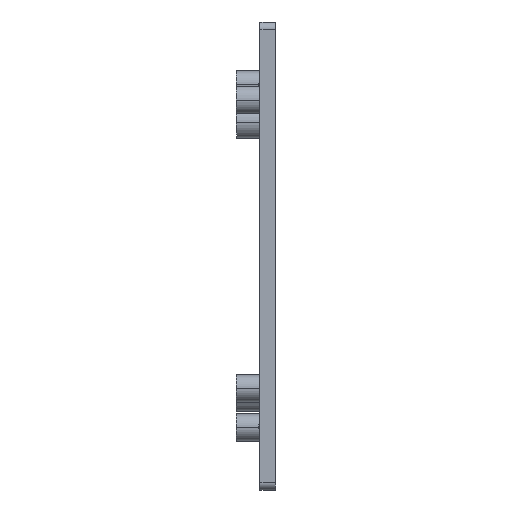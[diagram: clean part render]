
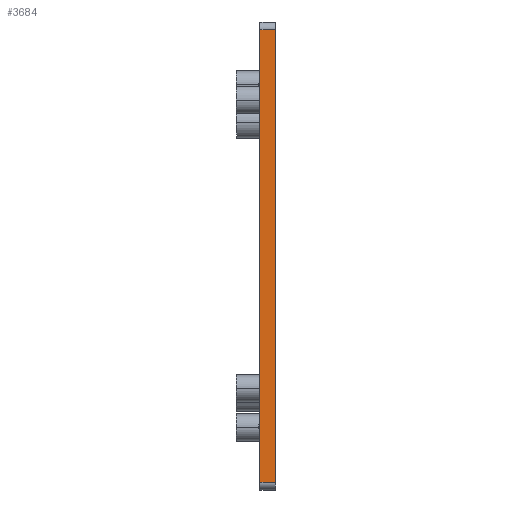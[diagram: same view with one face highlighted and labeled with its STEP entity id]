
A CAD part, left-side view. The second image highlights one B-rep face of the part: STEP entity #3684.
In plain terms, the highlighted planar face has unit normal (-1, 0, 0).
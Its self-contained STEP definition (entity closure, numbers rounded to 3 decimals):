
#66=DIRECTION('',(0.,0.,1.));
#67=VECTOR('',#66,58.);
#68=CARTESIAN_POINT('',(0.,0.,-59.));
#69=LINE('',#68,#67);
#579=DIRECTION('',(0.,0.,1.));
#580=VECTOR('',#579,58.);
#581=CARTESIAN_POINT('',(0.,2.,-59.));
#582=LINE('',#581,#580);
#1317=DIRECTION('',(0.,-1.,0.));
#1318=VECTOR('',#1317,2.);
#1319=CARTESIAN_POINT('',(0.,2.,-59.));
#1320=LINE('',#1319,#1318);
#1321=DIRECTION('',(0.,-1.,0.));
#1322=VECTOR('',#1321,2.);
#1323=CARTESIAN_POINT('',(0.,2.,-1.));
#1324=LINE('',#1323,#1322);
#1974=CARTESIAN_POINT('',(0.,0.,-1.));
#1976=VERTEX_POINT('',#1974);
#1977=CARTESIAN_POINT('',(0.,2.,-1.));
#1978=VERTEX_POINT('',#1977);
#1997=CARTESIAN_POINT('',(0.,0.,-59.));
#1999=VERTEX_POINT('',#1997);
#2003=CARTESIAN_POINT('',(0.,2.,-59.));
#2004=VERTEX_POINT('',#2003);
#3673=CARTESIAN_POINT('',(0.,0.,-60.));
#3674=DIRECTION('',(-1.,0.,0.));
#3675=DIRECTION('',(0.,0.,1.));
#3676=AXIS2_PLACEMENT_3D('',#3673,#3674,#3675);
#3677=PLANE('',#3676);
#3678=ORIENTED_EDGE('',*,*,#3590,.F.);
#3679=ORIENTED_EDGE('',*,*,#2657,.T.);
#3680=ORIENTED_EDGE('',*,*,#3666,.T.);
#3681=ORIENTED_EDGE('',*,*,#2372,.F.);
#3682=EDGE_LOOP('',(#3678,#3679,#3680,#3681));
#3683=FACE_OUTER_BOUND('',#3682,.F.);
#3684=ADVANCED_FACE('',(#3683),#3677,.T.);
#2372=EDGE_CURVE('',#1999,#1976,#69,.T.);
#2657=EDGE_CURVE('',#2004,#1978,#582,.T.);
#3590=EDGE_CURVE('',#2004,#1999,#1320,.T.);
#3666=EDGE_CURVE('',#1978,#1976,#1324,.T.);
